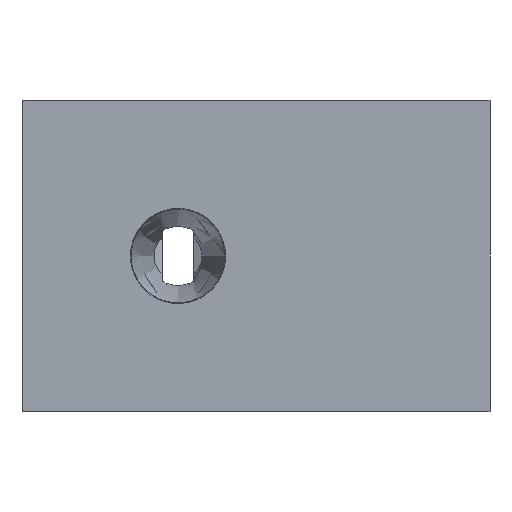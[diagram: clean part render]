
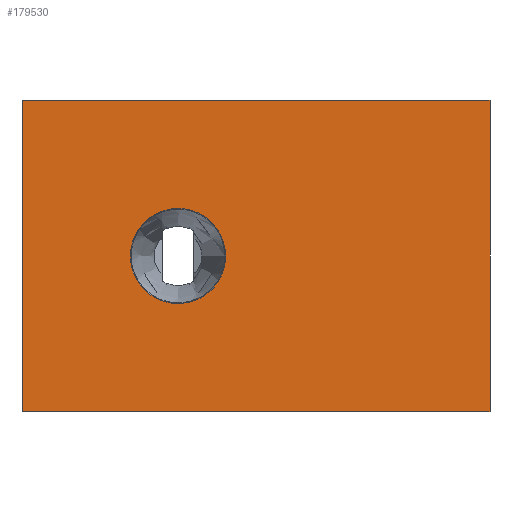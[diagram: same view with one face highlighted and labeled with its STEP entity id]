
A CAD part, front view. The second image highlights one B-rep face of the part: STEP entity #179530.
In plain terms, the highlighted free-form (B-spline) face has degree [1, 1] with [2, 2] control points.
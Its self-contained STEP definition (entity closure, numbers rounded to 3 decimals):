
#175190 = CARTESIAN_POINT ('', (0., 0., 0.));
#175200 = VERTEX_POINT ('', #175190);
#175260 = CARTESIAN_POINT ('', (0., 0., 20.));
#175270 = VERTEX_POINT ('', #175260);
#175280 = CARTESIAN_POINT ('', (0., 0., 0.));
#175290 = CARTESIAN_POINT ('', (0., 0., 20.));
#175300 = B_SPLINE_CURVE_WITH_KNOTS ('', 1, (#175280, #175290), .UNSPECIFIED., .F., .U., (2, 2), (0., 1.), .UNSPECIFIED.);
#175310 = EDGE_CURVE ('', #175200, #175270, #175300, .T.);
#179030 = CARTESIAN_POINT ('', (30., 0., 0.));
#179040 = VERTEX_POINT ('', #179030);
#179050 = CARTESIAN_POINT ('', (0., 0., 0.));
#179060 = CARTESIAN_POINT ('', (30., 0., 0.));
#179070 = B_SPLINE_CURVE_WITH_KNOTS ('', 1, (#179050, #179060), .UNSPECIFIED., .F., .U., (2, 2), (0., 1.), .UNSPECIFIED.);
#179080 = EDGE_CURVE ('', #175200, #179040, #179070, .T.);
#179090 = ORIENTED_EDGE ('', *, *, #179080, .T.);
#179100 = CARTESIAN_POINT ('', (30., 0., 10.));
#179110 = VERTEX_POINT ('', #179100);
#179120 = CARTESIAN_POINT ('', (30., 0., 10.));
#179130 = CARTESIAN_POINT ('', (30., 0., 0.));
#179140 = B_SPLINE_CURVE_WITH_KNOTS ('', 1, (#179120, #179130), .UNSPECIFIED., .F., .U., (2, 2), (0., 1.), .UNSPECIFIED.);
#179150 = EDGE_CURVE ('', #179110, #179040, #179140, .T.);
#179160 = ORIENTED_EDGE ('', *, *, #179150, .F.);
#179170 = CARTESIAN_POINT ('', (30., 0., 20.));
#179180 = VERTEX_POINT ('', #179170);
#179190 = CARTESIAN_POINT ('', (30., 0., 10.));
#179200 = CARTESIAN_POINT ('', (30., 0., 20.));
#179210 = B_SPLINE_CURVE_WITH_KNOTS ('', 1, (#179190, #179200), .UNSPECIFIED., .F., .U., (2, 2), (0., 1.), .UNSPECIFIED.);
#179220 = EDGE_CURVE ('', #179110, #179180, #179210, .T.);
#179230 = ORIENTED_EDGE ('', *, *, #179220, .T.);
#179240 = CARTESIAN_POINT ('', (0., 0., 20.));
#179250 = CARTESIAN_POINT ('', (30., 0., 20.));
#179260 = B_SPLINE_CURVE_WITH_KNOTS ('', 1, (#179240, #179250), .UNSPECIFIED., .F., .U., (2, 2), (0., 1.), .UNSPECIFIED.);
#179270 = EDGE_CURVE ('', #175270, #179180, #179260, .T.);
#179280 = ORIENTED_EDGE ('', *, *, #179270, .F.);
#179290 = ORIENTED_EDGE ('', *, *, #175310, .F.);
#179300 = EDGE_LOOP ('', (#179090, #179160, #179230, #179280, #179290));
#179310 = FACE_OUTER_BOUND ('', #179300, .T.);
#179320 = CARTESIAN_POINT ('', (13.05, 0., 10.));
#179330 = VERTEX_POINT ('', #179320);
#179340 = CARTESIAN_POINT ('', (13.05, 0., 10.));
#179350 = CARTESIAN_POINT ('', (13.05, 0., 13.05));
#179360 = CARTESIAN_POINT ('', (10., 0., 13.05));
#179370 = CARTESIAN_POINT ('', (6.95, 0., 13.05));
#179380 = CARTESIAN_POINT ('', (6.95, 0., 10.));
#179390 = CARTESIAN_POINT ('', (6.95, 0., 6.95));
#179400 = CARTESIAN_POINT ('', (10., 0., 6.95));
#179410 = CARTESIAN_POINT ('', (13.05, 0., 6.95));
#179420 = CARTESIAN_POINT ('', (13.05, 0., 10.));
#179430 = (
   BOUNDED_CURVE ()
   B_SPLINE_CURVE (2, (#179340, #179350, #179360, #179370, #179380, #179390, #179400, #179410, #179420), .UNSPECIFIED., .T., .U.)
   B_SPLINE_CURVE_WITH_KNOTS ((3, 2, 2, 2, 3), (0., 0.25, 0.5, 0.75, 1.), .UNSPECIFIED.)
   CURVE ()
   GEOMETRIC_REPRESENTATION_ITEM ()
   RATIONAL_B_SPLINE_CURVE ((1., 0.707, 1., 0.707, 1., 0.707, 1., 0.707, 1.))
   REPRESENTATION_ITEM ('')
);
#179440 = EDGE_CURVE ('', #179330, #179330, #179430, .T.);
#179450 = ORIENTED_EDGE ('', *, *, #179440, .F.);
#179460 = EDGE_LOOP ('', (#179450));
#179470 = FACE_BOUND ('', #179460, .T.);
#179480 = CARTESIAN_POINT ('', (0., 0., 0.));
#179490 = CARTESIAN_POINT ('', (0., 0., 20.));
#179500 = CARTESIAN_POINT ('', (30., 0., 0.));
#179510 = CARTESIAN_POINT ('', (30., 0., 20.));
#179520 = B_SPLINE_SURFACE_WITH_KNOTS ('', 1, 1, ((#179480, #179490), (#179500, #179510)), .UNSPECIFIED., .F., .F., .U., (2, 2), (2, 2), (-2., 1.), (-1., 1.), .UNSPECIFIED.);
#179530 = ADVANCED_FACE ('', (#179310, #179470), #179520, .T.);
